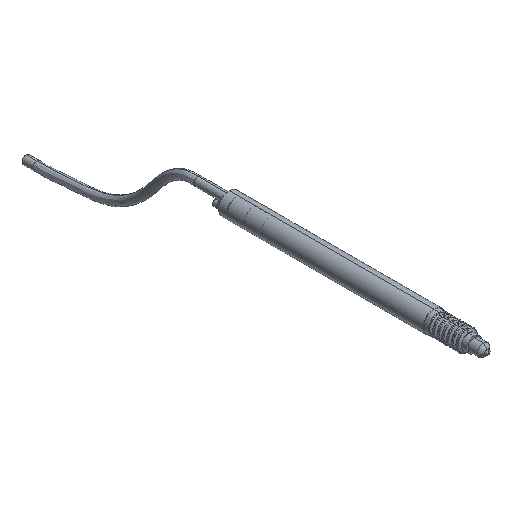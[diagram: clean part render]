
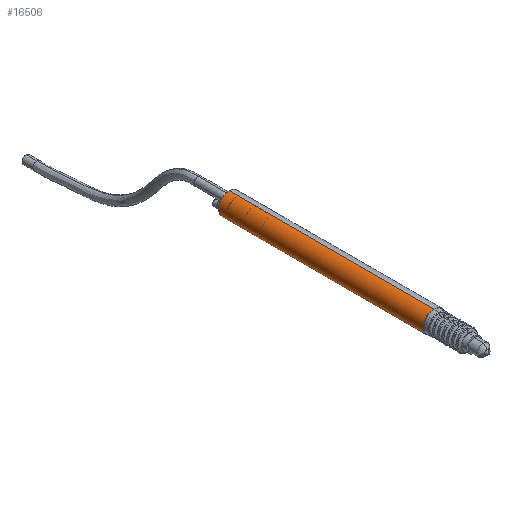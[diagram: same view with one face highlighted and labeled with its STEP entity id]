
A CAD part, isometric view. The second image highlights one B-rep face of the part: STEP entity #16506.
In plain terms, the highlighted cylindrical face has radius 4 mm (diameter 8 mm), a partial arc.
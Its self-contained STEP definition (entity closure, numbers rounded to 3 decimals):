
#4010=DIRECTION('',(0.,1.,0.));
#4011=VECTOR('',#4010,76.2);
#4012=CARTESIAN_POINT('',(0.,-73.3,-4.));
#4013=LINE('',#4012,#4011);
#4014=CARTESIAN_POINT('',(0.,2.9,0.));
#4015=DIRECTION('',(0.,1.,0.));
#4016=DIRECTION('',(0.,0.,-1.));
#4017=AXIS2_PLACEMENT_3D('',#4014,#4015,#4016);
#4019=DIRECTION('',(0.,-1.,0.));
#4020=VECTOR('',#4019,76.2);
#4021=CARTESIAN_POINT('',(0.,2.9,
4.));
#4022=LINE('',#4021,#4020);
#4023=CARTESIAN_POINT('',(0.,-73.3,0.));
#4024=DIRECTION('',(0.,1.,0.));
#4025=DIRECTION('',(0.,0.,-1.));
#4026=AXIS2_PLACEMENT_3D('',#4023,#4024,#4025);
#12770=CARTESIAN_POINT('',(0.,-73.3,-4.));
#12771=CARTESIAN_POINT('',(0.,-73.3,4.));
#12772=VERTEX_POINT('',#12770);
#12773=VERTEX_POINT('',#12771);
#14938=CARTESIAN_POINT('',(0.,2.9,-4.));
#14939=CARTESIAN_POINT('',(0.,2.9,4.));
#14940=VERTEX_POINT('',#14938);
#14941=VERTEX_POINT('',#14939);
#16493=CARTESIAN_POINT('',(0.,3.665,0.));
#16494=DIRECTION('',(0.,-1.,0.));
#16495=DIRECTION('',(0.,0.,1.));
#16496=AXIS2_PLACEMENT_3D('',#16493,#16494,#16495);
#16497=CYLINDRICAL_SURFACE('',#16496,4.);
#16498=ORIENTED_EDGE('',*,*,#15040,.T.);
#16500=ORIENTED_EDGE('',*,*,#16499,.T.);
#16501=ORIENTED_EDGE('',*,*,#15036,.T.);
#16503=ORIENTED_EDGE('',*,*,#16502,.F.);
#16504=EDGE_LOOP('',(#16498,#16500,#16501,#16503));
#16505=FACE_OUTER_BOUND('',#16504,.F.);
#4018=CIRCLE('',#4017,4.);
#4027=CIRCLE('',#4026,4.);
#15036=EDGE_CURVE('',#14941,#12773,#4022,.T.);
#15040=EDGE_CURVE('',#12772,#14940,#4013,.T.);
#16499=EDGE_CURVE('',#14940,#14941,#4018,.T.);
#16502=EDGE_CURVE('',#12772,#12773,#4027,.T.);
#16506=ADVANCED_FACE('',(#16505),#16497,.T.);
